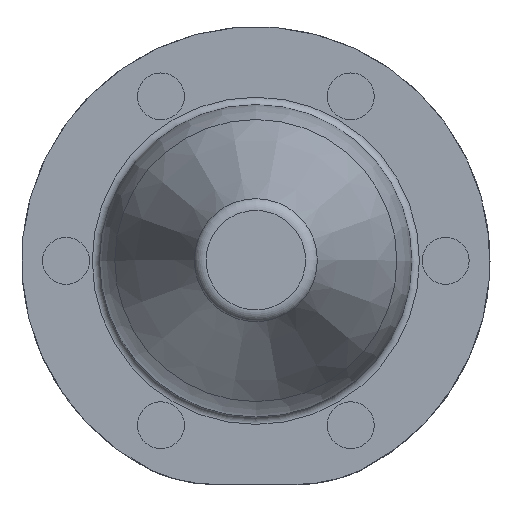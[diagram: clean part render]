
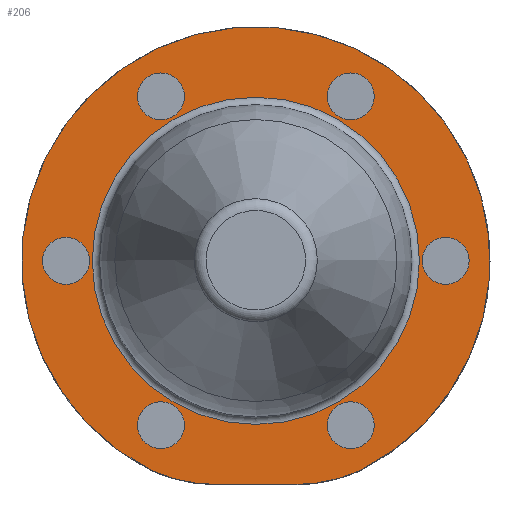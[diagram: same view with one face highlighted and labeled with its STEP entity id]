
A CAD part, top view. The second image highlights one B-rep face of the part: STEP entity #206.
In plain terms, the highlighted planar face has unit normal (0, 0, 1).
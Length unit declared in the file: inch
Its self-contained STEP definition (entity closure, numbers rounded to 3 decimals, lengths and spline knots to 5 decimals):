
#8 = DIRECTION ( 'NONE',  ( -1., 0., 0. ) ) ;
#9 = ORIENTED_EDGE ( 'NONE', *, *, #847, .F. ) ;
#14 = DIRECTION ( 'NONE',  ( 0., 0., -1. ) ) ;
#26 = DIRECTION ( 'NONE',  ( 0.5, -0.866, 0. ) ) ;
#37 = EDGE_CURVE ( 'NONE', #858, #820, #608, .T. ) ;
#45 = CARTESIAN_POINT ( 'NONE',  ( -0.38, 0., -0.015 ) ) ;
#49 = CIRCLE ( 'NONE', #924, 0.047 ) ;
#52 = FACE_BOUND ( 'NONE', #282, .T. ) ;
#68 = EDGE_CURVE ( 'NONE', #481, #858, #625, .T. ) ;
#80 = CARTESIAN_POINT ( 'NONE',  ( -0.2135, 0.28839, -0.015 ) ) ;
#83 = AXIS2_PLACEMENT_3D ( 'NONE', #252, #237, #878 ) ;
#88 = DIRECTION ( 'NONE',  ( 1., 0., 0. ) ) ;
#105 = AXIS2_PLACEMENT_3D ( 'NONE', #729, #801, #8 ) ;
#113 = AXIS2_PLACEMENT_3D ( 'NONE', #529, #14, #177 ) ;
#126 = VERTEX_POINT ( 'NONE', #187 ) ;
#131 = DIRECTION ( 'NONE',  ( 1., 0., 0. ) ) ;
#141 = DIRECTION ( 'NONE',  ( 1., 0., 0. ) ) ;
#145 = EDGE_LOOP ( 'NONE', ( #511 ) ) ;
#177 = DIRECTION ( 'NONE',  ( 1., 0., 0. ) ) ;
#187 = CARTESIAN_POINT ( 'NONE',  ( -0.3565, -0.0407, -0.015 ) ) ;
#199 = CIRCLE ( 'NONE', #273, 0.047 ) ;
#201 = FACE_OUTER_BOUND ( 'NONE', #807, .T. ) ;
#206 = ADVANCED_FACE ( 'NONE', ( #842, #491, #791, #52, #209, #276, #906, #201 ), #266, .T. ) ;
#207 = VERTEX_POINT ( 'NONE', #622 ) ;
#209 = FACE_BOUND ( 'NONE', #377, .T. ) ;
#220 = ORIENTED_EDGE ( 'NONE', *, *, #479, .F. ) ;
#225 = EDGE_LOOP ( 'NONE', ( #344 ) ) ;
#234 = VERTEX_POINT ( 'NONE', #803 ) ;
#237 = DIRECTION ( 'NONE',  ( 0., 0., 1. ) ) ;
#240 = DIRECTION ( 'NONE',  ( 0., 0., 1. ) ) ;
#243 = LINE ( 'NONE', #879, #292 ) ;
#250 = VERTEX_POINT ( 'NONE', #562 ) ;
#251 = CIRCLE ( 'NONE', #350, 0.325 ) ;
#252 = CARTESIAN_POINT ( 'NONE',  ( -0.19, 0.32909, -0.015 ) ) ;
#263 = CIRCLE ( 'NONE', #113, 0.3275 ) ;
#266 = PLANE ( 'NONE',  #532 ) ;
#273 = AXIS2_PLACEMENT_3D ( 'NONE', #796, #287, #640 ) ;
#276 = FACE_BOUND ( 'NONE', #145, .T. ) ;
#277 = CARTESIAN_POINT ( 'NONE',  ( 0., 0., -0.015 ) ) ;
#282 = EDGE_LOOP ( 'NONE', ( #355 ) ) ;
#287 = DIRECTION ( 'NONE',  ( 0., 0., 1. ) ) ;
#292 = VECTOR ( 'NONE', #536, 39.37008 ) ;
#294 = CARTESIAN_POINT ( 'NONE',  ( 0.07631, -0.448, -0.015 ) ) ;
#297 = EDGE_LOOP ( 'NONE', ( #882 ) ) ;
#309 = DIRECTION ( 'NONE',  ( 1., 0., 0. ) ) ;
#344 = ORIENTED_EDGE ( 'NONE', *, *, #677, .F. ) ;
#349 = DIRECTION ( 'NONE',  ( 0., 0., 1. ) ) ;
#350 = AXIS2_PLACEMENT_3D ( 'NONE', #659, #672, #309 ) ;
#355 = ORIENTED_EDGE ( 'NONE', *, *, #445, .F. ) ;
#364 = CARTESIAN_POINT ( 'NONE',  ( 0.3275, 0., -0.015 ) ) ;
#372 = DIRECTION ( 'NONE',  ( 0.5, 0.866, 0. ) ) ;
#374 = ORIENTED_EDGE ( 'NONE', *, *, #68, .T. ) ;
#377 = EDGE_LOOP ( 'NONE', ( #571 ) ) ;
#389 = CARTESIAN_POINT ( 'NONE',  ( 0.20703, -0.42055, -0.015 ) ) ;
#418 = AXIS2_PLACEMENT_3D ( 'NONE', #277, #349, #141 ) ;
#438 = CARTESIAN_POINT ( 'NONE',  ( 0., 0., -0.015 ) ) ;
#442 = VERTEX_POINT ( 'NONE', #728 ) ;
#445 = EDGE_CURVE ( 'NONE', #234, #234, #199, .T. ) ;
#446 = CARTESIAN_POINT ( 'NONE',  ( 0.19, -0.32909, -0.015 ) ) ;
#479 = EDGE_CURVE ( 'NONE', #442, #442, #914, .T. ) ;
#481 = VERTEX_POINT ( 'NONE', #294 ) ;
#484 = VERTEX_POINT ( 'NONE', #364 ) ;
#489 = VERTEX_POINT ( 'NONE', #560 ) ;
#491 = FACE_BOUND ( 'NONE', #225, .T. ) ;
#511 = ORIENTED_EDGE ( 'NONE', *, *, #637, .F. ) ;
#529 = CARTESIAN_POINT ( 'NONE',  ( 0., 0., -0.015 ) ) ;
#532 = AXIS2_PLACEMENT_3D ( 'NONE', #438, #713, #720 ) ;
#536 = DIRECTION ( 'NONE',  ( 1., 0., 0. ) ) ;
#548 = CIRCLE ( 'NONE', #614, 0.047 ) ;
#560 = CARTESIAN_POINT ( 'NONE',  ( 0.2135, -0.28839, -0.015 ) ) ;
#562 = CARTESIAN_POINT ( 'NONE',  ( -0.07631, -0.448, -0.015 ) ) ;
#571 = ORIENTED_EDGE ( 'NONE', *, *, #777, .F. ) ;
#587 = CARTESIAN_POINT ( 'NONE',  ( -0.20703, -0.42055, -0.015 ) ) ;
#589 = EDGE_LOOP ( 'NONE', ( #220 ) ) ;
#608 = CIRCLE ( 'NONE', #418, 0.46875 ) ;
#613 = DIRECTION ( 'NONE',  ( 0., 0., 1. ) ) ;
#614 = AXIS2_PLACEMENT_3D ( 'NONE', #45, #613, #26 ) ;
#622 = CARTESIAN_POINT ( 'NONE',  ( -0.143, -0.32909, -0.015 ) ) ;
#625 = CIRCLE ( 'NONE', #750, 0.325 ) ;
#627 = VERTEX_POINT ( 'NONE', #80 ) ;
#634 = CIRCLE ( 'NONE', #875, 0.047 ) ;
#637 = EDGE_CURVE ( 'NONE', #207, #207, #634, .T. ) ;
#640 = DIRECTION ( 'NONE',  ( -0.5, 0.866, 0. ) ) ;
#659 = CARTESIAN_POINT ( 'NONE',  ( -0.07631, -0.123, -0.015 ) ) ;
#672 = DIRECTION ( 'NONE',  ( 0., 0., 1. ) ) ;
#675 = CARTESIAN_POINT ( 'NONE',  ( -0.19, -0.32909, -0.015 ) ) ;
#677 = EDGE_CURVE ( 'NONE', #627, #627, #690, .T. ) ;
#689 = EDGE_CURVE ( 'NONE', #484, #484, #263, .T. ) ;
#690 = CIRCLE ( 'NONE', #83, 0.047 ) ;
#713 = DIRECTION ( 'NONE',  ( 0., 0., 1. ) ) ;
#720 = DIRECTION ( 'NONE',  ( 1., 0., 0. ) ) ;
#728 = CARTESIAN_POINT ( 'NONE',  ( 0.143, 0.32909, -0.015 ) ) ;
#729 = CARTESIAN_POINT ( 'NONE',  ( 0.19, 0.32909, -0.015 ) ) ;
#745 = DIRECTION ( 'NONE',  ( 0., 0., 1. ) ) ;
#750 = AXIS2_PLACEMENT_3D ( 'NONE', #855, #919, #131 ) ;
#768 = EDGE_CURVE ( 'NONE', #250, #481, #243, .T. ) ;
#777 = EDGE_CURVE ( 'NONE', #489, #489, #49, .T. ) ;
#791 = FACE_BOUND ( 'NONE', #589, .T. ) ;
#796 = CARTESIAN_POINT ( 'NONE',  ( 0.38, 0., -0.015 ) ) ;
#798 = ORIENTED_EDGE ( 'NONE', *, *, #37, .T. ) ;
#801 = DIRECTION ( 'NONE',  ( 0., 0., 1. ) ) ;
#803 = CARTESIAN_POINT ( 'NONE',  ( 0.3565, 0.0407, -0.015 ) ) ;
#807 = EDGE_LOOP ( 'NONE', ( #798, #829, #870, #374 ) ) ;
#820 = VERTEX_POINT ( 'NONE', #587 ) ;
#824 = EDGE_CURVE ( 'NONE', #820, #250, #251, .T. ) ;
#829 = ORIENTED_EDGE ( 'NONE', *, *, #824, .T. ) ;
#842 = FACE_BOUND ( 'NONE', #891, .T. ) ;
#847 = EDGE_CURVE ( 'NONE', #126, #126, #548, .T. ) ;
#855 = CARTESIAN_POINT ( 'NONE',  ( 0.07631, -0.123, -0.015 ) ) ;
#858 = VERTEX_POINT ( 'NONE', #389 ) ;
#870 = ORIENTED_EDGE ( 'NONE', *, *, #768, .T. ) ;
#875 = AXIS2_PLACEMENT_3D ( 'NONE', #675, #745, #88 ) ;
#878 = DIRECTION ( 'NONE',  ( -0.5, -0.866, 0. ) ) ;
#879 = CARTESIAN_POINT ( 'NONE',  ( 0., -0.448, -0.015 ) ) ;
#882 = ORIENTED_EDGE ( 'NONE', *, *, #689, .T. ) ;
#891 = EDGE_LOOP ( 'NONE', ( #9 ) ) ;
#906 = FACE_BOUND ( 'NONE', #297, .T. ) ;
#914 = CIRCLE ( 'NONE', #105, 0.047 ) ;
#919 = DIRECTION ( 'NONE',  ( 0., 0., 1. ) ) ;
#924 = AXIS2_PLACEMENT_3D ( 'NONE', #446, #240, #372 ) ;
